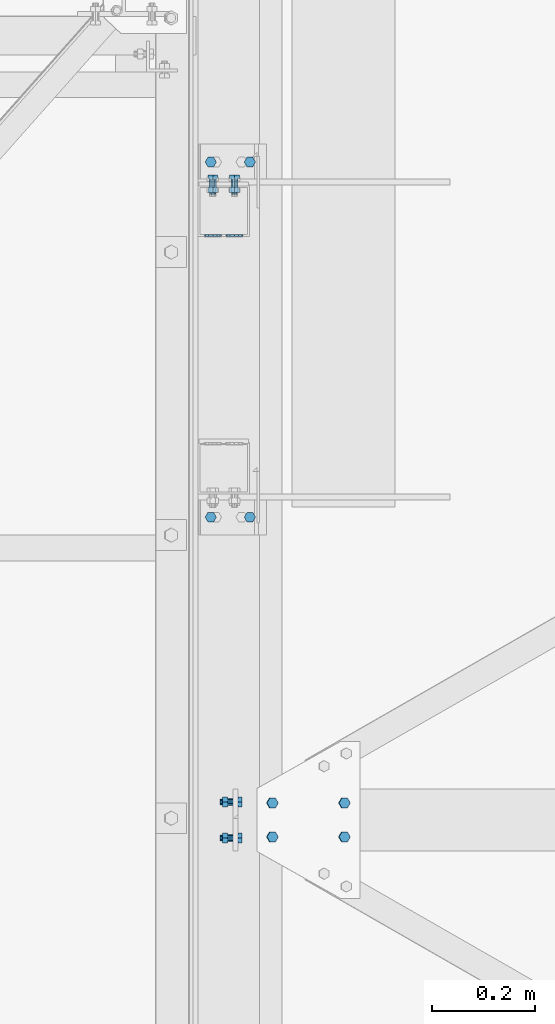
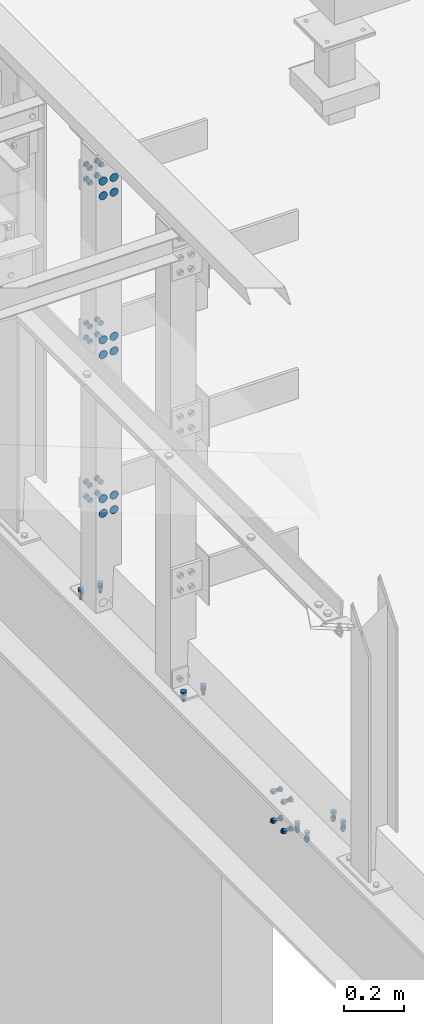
# One storey, part 364 of 3134: 10 mechanical fasteners, 5 elements without a shape of their own.
"""IFC2X3 building model written with IfcOpenShell, lengths in millimetres."""

from ifc_helpers import new_model, si_unit, frame, origin_with_axes, place, context, subcontext, project, spatial, faceted_brep, source, transform, mapped, material, type_object, element, aggregate, save


model = new_model("IFC2X3")

# Units and contexts
model_context = context("Model", 3, precision=1e-05, world=origin_with_axes())
body_context = subcontext(model_context, "Body", "Model", "MODEL_VIEW")
ifc_project = project(units=[si_unit("LENGTHUNIT", "METRE", prefix="MILLI"), si_unit("AREAUNIT", "SQUARE_METRE"), si_unit("VOLUMEUNIT", "CUBIC_METRE"), si_unit("MASSUNIT", "GRAM", prefix="KILO"), si_unit("TIMEUNIT", "SECOND"), si_unit("PLANEANGLEUNIT", "RADIAN"), si_unit("SOLIDANGLEUNIT", "STERADIAN"), si_unit("THERMODYNAMICTEMPERATUREUNIT", "DEGREE_CELSIUS"), si_unit("LUMINOUSINTENSITYUNIT", "LUMEN")], contexts=[model_context])

# Site, building, storey
site_placement = place(None, origin_with_axes())
site = spatial("IfcSite", under=ifc_project, at=site_placement, CompositionType="ELEMENT")
building_placement = place(site_placement, origin_with_axes())
building = spatial("IfcBuilding", under=site, at=building_placement, Name="Undefined", CompositionType="ELEMENT")
storey_placement = place(building_placement, origin_with_axes())
storey = spatial("IfcBuildingStorey", under=building, at=storey_placement, Name="Undefined", CompositionType="ELEMENT", Elevation=0.0)

# Assembly, mechanical fasteners
assembly_1_placement = place(storey_placement, origin_with_axes())
assembly_1 = element("IfcElementAssembly", 1, at=assembly_1_placement, inside=storey, AssemblyPlace="NOTDEFINED", PredefinedType="RIGID_FRAME")
ifc_material = material(Name="8.8")
mechanical_fastener_type = type_object("IfcMechanicalFastenerType", Name="Bolt assembly")
shared_shape_1 = source(origin_with_axes(), body_context, "Body", "Brep", [
    faceted_brep([(16.5, -4.0, 0.0), (14.289419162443, -4.0, 8.25000000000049), (8.24999999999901, -4.0, 14.2894191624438), (-1.70995436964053e-12, -4.0, 16.5), (-8.25000000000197, -4.0, 14.2894191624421), (-14.2894191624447, -4.0, 8.24999999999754), (-16.5, -4.0, -3.41990873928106e-12), (-14.2894191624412, -4.0, -8.25000000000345), (-8.24999999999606, -4.0, -14.2894191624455), (5.11154442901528e-12, -4.0, -16.5), (8.25000000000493, -4.0, -14.2894191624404), (14.2894191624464, -4.0, -8.24999999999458), (14.2894191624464, 0.1, -8.24999999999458), (8.25000000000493, 0.1, -14.2894191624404), (5.11154442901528e-12, 0.1, -16.5), (-8.24999999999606, 0.1, -14.2894191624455), (-14.2894191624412, 0.1, -8.25000000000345), (-16.5, 0.1, -3.41990873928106e-12), (-14.2894191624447, 0.1, 8.24999999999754), (-8.25000000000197, 0.1, 14.2894191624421), (-1.70995436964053e-12, 0.1, 16.5), (8.24999999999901, 0.1, 14.2894191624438), (14.289419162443, 0.1, 8.25000000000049), (16.5, 0.1, 0.0)], [[[0, 1, 2, 3, 4, 5, 6, 7, 8, 9, 10, 11]], [[12, 13, 14, 15, 16, 17, 18, 19, 20, 21, 22, 23]], [[0, 23, 22, 1]], [[1, 22, 21, 2]], [[2, 21, 20, 3]], [[3, 20, 19, 4]], [[4, 19, 18, 5]], [[5, 18, 17, 6]], [[6, 17, 16, 7]], [[7, 16, 15, 8]], [[8, 15, 14, 9]], [[9, 14, 13, 10]], [[10, 13, 12, 11]], [[11, 12, 23, 0]]]),
])
mechanical_fastener_1_placement = place(assembly_1_placement, frame((71802.0, 18850.0, 5119.91), z_axis=(-1.0, 0.0, 0.0), x_axis=(0.0, 0.0, -1.0)))
mechanical_fastener_1 = element("IfcMechanicalFastener", 2, at=mechanical_fastener_1_placement, type_object=mechanical_fastener_type, material=ifc_material, Name="Bolt assembly", NominalDiameter=30.0, NominalLength=4.0, context=body_context, shape_type="MappedRepresentation", body=[
    mapped(shared_shape_1, transform((0.0, 0.0, -21.0))),
    mapped(shared_shape_1, transform((60.0, 0.0, -21.0))),
    mapped(shared_shape_1, transform((0.0, 0.0, 21.0))),
    mapped(shared_shape_1, transform((60.0, 0.0, 21.0))),
])
mechanical_fastener_2_placement = place(assembly_1_placement, frame((71802.0, 18850.0, 5770.0), z_axis=(-1.0, 0.0, 0.0), x_axis=(0.0, 0.0, -1.0)))
mechanical_fastener_2 = element("IfcMechanicalFastener", 3, at=mechanical_fastener_2_placement, type_object=mechanical_fastener_type, material=ifc_material, Name="Bolt assembly", NominalDiameter=30.0, NominalLength=4.0, context=body_context, shape_type="MappedRepresentation", body=[
    mapped(shared_shape_1, transform((0.0, 0.0, -21.0))),
    mapped(shared_shape_1, transform((60.0, 0.0, -21.0))),
    mapped(shared_shape_1, transform((0.0, 0.0, 21.0))),
    mapped(shared_shape_1, transform((60.0, 0.0, 21.0))),
])
mechanical_fastener_3_placement = place(assembly_1_placement, frame((71802.0, 18850.0, 4469.82), z_axis=(-1.0, 0.0, 0.0), x_axis=(0.0, 0.0, -1.0)))
mechanical_fastener_3 = element("IfcMechanicalFastener", 4, at=mechanical_fastener_3_placement, type_object=mechanical_fastener_type, material=ifc_material, Name="Bolt assembly", NominalDiameter=30.0, NominalLength=4.0, context=body_context, shape_type="MappedRepresentation", body=[
    mapped(shared_shape_1, transform((0.0, 0.0, -21.0))),
    mapped(shared_shape_1, transform((60.0, 0.0, -21.0))),
    mapped(shared_shape_1, transform((0.0, 0.0, 21.0))),
    mapped(shared_shape_1, transform((60.0, 0.0, 21.0))),
])
shared_shape_2 = source(origin_with_axes(), body_context, "Body", "Brep", [
    faceted_brep([(10.9696551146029, -20.0, 0.0), (5.48482755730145, -20.0, 9.5), (-5.48482755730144, -20.0, 9.5), (-10.9696551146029, -20.0, 1.34339530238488e-15), (-5.48482755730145, -20.0, -9.5), (5.48482755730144, -20.0, -9.50000000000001), (5.48482755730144, -12.0, -9.50000000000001), (-5.48482755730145, -12.0, -9.5), (-10.9696551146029, -12.0, 1.34339530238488e-15), (-5.48482755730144, -12.0, 9.5), (5.48482755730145, -12.0, 9.5), (10.9696551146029, -12.0, 0.0), (6.0, -12.0, 0.0), (5.19615242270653, -12.0, 3.00000000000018), (2.99999999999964, -12.0, 5.19615242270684), (-6.21801588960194e-13, -12.0, 6.0), (-3.00000000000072, -12.0, 5.19615242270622), (-5.19615242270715, -12.0, 2.9999999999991), (-6.0, -12.0, -1.24360317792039e-12), (-5.19615242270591, -12.0, -3.00000000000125), (-2.99999999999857, -12.0, -5.19615242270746), (1.85874342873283e-12, -12.0, -6.0), (3.00000000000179, -12.0, -5.1961524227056), (5.19615242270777, -12.0, -2.99999999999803), (5.19615242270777, 18.0, -2.99999999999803), (3.00000000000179, 18.0, -5.1961524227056), (1.85874342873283e-12, 18.0, -6.0), (-2.99999999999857, 18.0, -5.19615242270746), (-5.19615242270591, 18.0, -3.00000000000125), (-6.0, 18.0, -1.24360317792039e-12), (-5.19615242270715, 18.0, 2.9999999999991), (-3.00000000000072, 18.0, 5.19615242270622), (-6.21801588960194e-13, 18.0, 6.0), (2.99999999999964, 18.0, 5.19615242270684), (5.19615242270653, 18.0, 3.00000000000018), (6.0, 18.0, 0.0), (10.9696551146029, 4.00000000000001, 0.0), (5.48482755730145, 4.00000000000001, 9.5), (-5.48482755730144, 4.00000000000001, 9.5), (-10.9696551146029, 4.00000000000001, 1.34339530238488e-15), (-5.48482755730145, 4.00000000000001, -9.5), (5.48482755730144, 4.00000000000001, -9.50000000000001), (5.48482755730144, 14.0, -9.50000000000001), (-5.48482755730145, 14.0, -9.5), (-10.9696551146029, 14.0, 1.34339530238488e-15), (-5.48482755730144, 14.0, 9.5), (5.48482755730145, 14.0, 9.5), (10.9696551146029, 14.0, 0.0)], [[[0, 1, 2, 3, 4, 5]], [[6, 7, 8, 9, 10, 11]], [[0, 11, 10, 1]], [[1, 10, 9, 2]], [[2, 9, 8, 3]], [[3, 8, 7, 4]], [[4, 7, 6, 5]], [[5, 6, 11, 0]], [[12, 13, 14, 15, 16, 17, 18, 19, 20, 21, 22, 23]], [[24, 25, 26, 27, 28, 29, 30, 31, 32, 33, 34, 35]], [[12, 35, 34, 13]], [[13, 34, 33, 14]], [[14, 33, 32, 15]], [[15, 32, 31, 16]], [[16, 31, 30, 17]], [[17, 30, 29, 18]], [[18, 29, 28, 19]], [[19, 28, 27, 20]], [[20, 27, 26, 21]], [[21, 26, 25, 22]], [[22, 25, 24, 23]], [[23, 24, 35, 12]], [[36, 37, 38, 39, 40, 41]], [[42, 43, 44, 45, 46, 47]], [[36, 47, 46, 37]], [[37, 46, 45, 38]], [[38, 45, 44, 39]], [[39, 44, 43, 40]], [[40, 43, 42, 41]], [[41, 42, 47, 36]]]),
    faceted_brep([(7.0, -11.9, 0.0), (6.06217782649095, -11.9, 3.50000000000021), (3.49999999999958, -11.9, 6.06217782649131), (-7.25435187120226e-13, -11.9, 7.0), (-3.50000000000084, -11.9, 6.06217782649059), (-6.06217782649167, -11.9, 3.49999999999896), (-7.0, -11.9, -1.45087037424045e-12), (-6.06217782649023, -11.9, -3.50000000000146), (-3.49999999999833, -11.9, -6.06217782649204), (2.1685340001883e-12, -11.9, -7.0), (3.50000000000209, -11.9, -6.06217782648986), (6.0621778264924, -11.9, -3.4999999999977), (6.0621778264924, 0.0999999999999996, -3.4999999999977), (3.50000000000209, 0.0999999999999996, -6.06217782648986), (2.1685340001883e-12, 0.0999999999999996, -7.0), (-3.49999999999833, 0.0999999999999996, -6.06217782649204), (-6.06217782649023, 0.0999999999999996, -3.50000000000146), (-7.0, 0.0999999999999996, -1.45087037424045e-12), (-6.06217782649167, 0.0999999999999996, 3.49999999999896), (-3.50000000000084, 0.0999999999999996, 6.06217782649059), (-7.25435187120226e-13, 0.0999999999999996, 7.0), (3.49999999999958, 0.0999999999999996, 6.06217782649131), (6.06217782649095, 0.0999999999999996, 3.50000000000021), (7.0, 0.0999999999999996, 0.0), (7.0, -0.1, 0.0), (6.06217782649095, -0.1, 3.50000000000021), (3.49999999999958, -0.1, 6.06217782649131), (-7.25435187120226e-13, -0.1, 7.0), (-3.50000000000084, -0.1, 6.06217782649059), (-6.06217782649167, -0.1, 3.49999999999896), (-7.0, -0.1, -1.45087037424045e-12), (-6.06217782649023, -0.1, -3.50000000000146), (-3.49999999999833, -0.1, -6.06217782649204), (2.1685340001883e-12, -0.1, -7.0), (3.50000000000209, -0.1, -6.06217782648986), (6.0621778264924, -0.1, -3.4999999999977), (6.0621778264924, 4.00000000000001, -3.4999999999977), (3.50000000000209, 4.00000000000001, -6.06217782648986), (2.1685340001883e-12, 4.00000000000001, -7.0), (-3.49999999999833, 4.00000000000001, -6.06217782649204), (-6.06217782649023, 4.00000000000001, -3.50000000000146), (-7.0, 4.00000000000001, -1.45087037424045e-12), (-6.06217782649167, 4.00000000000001, 3.49999999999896), (-3.50000000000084, 4.00000000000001, 6.06217782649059), (-7.25435187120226e-13, 4.00000000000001, 7.0), (3.49999999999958, 4.00000000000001, 6.06217782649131), (6.06217782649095, 4.00000000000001, 3.50000000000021), (7.0, 4.00000000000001, 0.0)], [[[0, 1, 2, 3, 4, 5, 6, 7, 8, 9, 10, 11]], [[12, 13, 14, 15, 16, 17, 18, 19, 20, 21, 22, 23]], [[0, 23, 22, 1]], [[1, 22, 21, 2]], [[2, 21, 20, 3]], [[3, 20, 19, 4]], [[4, 19, 18, 5]], [[5, 18, 17, 6]], [[6, 17, 16, 7]], [[7, 16, 15, 8]], [[8, 15, 14, 9]], [[9, 14, 13, 10]], [[10, 13, 12, 11]], [[11, 12, 23, 0]], [[24, 25, 26, 27, 28, 29, 30, 31, 32, 33, 34, 35]], [[36, 37, 38, 39, 40, 41, 42, 43, 44, 45, 46, 47]], [[24, 47, 46, 25]], [[25, 46, 45, 26]], [[26, 45, 44, 27]], [[27, 44, 43, 28]], [[28, 43, 42, 29]], [[29, 42, 41, 30]], [[30, 41, 40, 31]], [[31, 40, 39, 32]], [[32, 39, 38, 33]], [[33, 38, 37, 34]], [[34, 37, 36, 35]], [[35, 36, 47, 24]]]),
])
mechanical_fastener_4_placement = place(assembly_1_placement, frame((71802.0, 18950.0, 5119.91), z_axis=(-1.0, 0.0, 0.0), x_axis=(0.0, 0.0, -1.0)))
mechanical_fastener_4 = element("IfcMechanicalFastener", 5, at=mechanical_fastener_4_placement, type_object=mechanical_fastener_type, material=ifc_material, Name="Bolt assembly", NominalDiameter=12.0, NominalLength=30.0, context=body_context, shape_type="MappedRepresentation", body=[
    mapped(shared_shape_2, transform((0.0, 0.0, -21.0))),
    mapped(shared_shape_2, transform((60.0, 0.0, -21.0))),
    mapped(shared_shape_2, transform((0.0, 0.0, 21.0))),
    mapped(shared_shape_2, transform((60.0, 0.0, 21.0))),
])
mechanical_fastener_5_placement = place(assembly_1_placement, frame((71802.0, 18950.0, 4469.82), z_axis=(-1.0, 0.0, 0.0), x_axis=(0.0, 0.0, -1.0)))
mechanical_fastener_5 = element("IfcMechanicalFastener", 6, at=mechanical_fastener_5_placement, type_object=mechanical_fastener_type, material=ifc_material, Name="Bolt assembly", NominalDiameter=12.0, NominalLength=30.0, context=body_context, shape_type="MappedRepresentation", body=[
    mapped(shared_shape_2, transform((0.0, 0.0, -21.0))),
    mapped(shared_shape_2, transform((60.0, 0.0, -21.0))),
    mapped(shared_shape_2, transform((0.0, 0.0, 21.0))),
    mapped(shared_shape_2, transform((60.0, 0.0, 21.0))),
])
mechanical_fastener_6_placement = place(assembly_1_placement, frame((71802.0, 18950.0, 5770.0), z_axis=(-1.0, 0.0, 0.0), x_axis=(0.0, 0.0, -1.0)))
mechanical_fastener_6 = element("IfcMechanicalFastener", 7, at=mechanical_fastener_6_placement, type_object=mechanical_fastener_type, material=ifc_material, Name="Bolt assembly", NominalDiameter=12.0, NominalLength=30.0, context=body_context, shape_type="MappedRepresentation", body=[
    mapped(shared_shape_2, transform((0.0, 0.0, -21.0))),
    mapped(shared_shape_2, transform((60.0, 0.0, -21.0))),
    mapped(shared_shape_2, transform((0.0, 0.0, 21.0))),
    mapped(shared_shape_2, transform((60.0, 0.0, 21.0))),
])
aggregate(assembly_1, [mechanical_fastener_1, mechanical_fastener_4, mechanical_fastener_2, mechanical_fastener_3, mechanical_fastener_5, mechanical_fastener_6])

# Assembly, mechanical fastener
assembly_2_placement = place(storey_placement, origin_with_axes())
assembly_2 = element("IfcElementAssembly", 8, at=assembly_2_placement, inside=storey, AssemblyPlace="NOTDEFINED", PredefinedType="RIGID_FRAME")
shared_shape_3 = source(origin_with_axes(), body_context, "Body", "Brep", [
    faceted_brep([(10.9696551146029, -16.0, 0.0), (5.48482755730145, -16.0, 9.5), (-5.48482755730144, -16.0, 9.5), (-10.9696551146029, -16.0, 1.34339530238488e-15), (-5.48482755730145, -16.0, -9.5), (5.48482755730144, -16.0, -9.50000000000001), (5.48482755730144, -8.0, -9.50000000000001), (-5.48482755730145, -8.0, -9.5), (-10.9696551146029, -8.0, 1.34339530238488e-15), (-5.48482755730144, -8.0, 9.5), (5.48482755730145, -8.0, 9.5), (10.9696551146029, -8.0, 0.0), (6.0, -8.0, 0.0), (5.19615242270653, -8.0, 3.00000000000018), (2.99999999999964, -8.0, 5.19615242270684), (-6.21801588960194e-13, -8.0, 6.0), (-3.00000000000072, -8.0, 5.19615242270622), (-5.19615242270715, -8.0, 2.9999999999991), (-6.0, -8.0, -1.24360317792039e-12), (-5.19615242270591, -8.0, -3.00000000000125), (-2.99999999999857, -8.0, -5.19615242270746), (1.85874342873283e-12, -8.0, -6.0), (3.00000000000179, -8.0, -5.1961524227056), (5.19615242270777, -8.0, -2.99999999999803), (5.19615242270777, 27.0, -2.99999999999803), (3.00000000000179, 27.0, -5.1961524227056), (1.85874342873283e-12, 27.0, -6.0), (-2.99999999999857, 27.0, -5.19615242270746), (-5.19615242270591, 27.0, -3.00000000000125), (-6.0, 27.0, -1.24360317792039e-12), (-5.19615242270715, 27.0, 2.9999999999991), (-3.00000000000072, 27.0, 5.19615242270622), (-6.21801588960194e-13, 27.0, 6.0), (2.99999999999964, 27.0, 5.19615242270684), (5.19615242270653, 27.0, 3.00000000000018), (6.0, 27.0, 0.0), (10.9696551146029, 0.0, 0.0), (5.48482755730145, 0.0, 9.5), (-5.48482755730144, 0.0, 9.5), (-10.9696551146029, 0.0, 1.34339530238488e-15), (-5.48482755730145, 0.0, -9.5), (5.48482755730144, 0.0, -9.50000000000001), (5.48482755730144, 10.0, -9.50000000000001), (-5.48482755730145, 10.0, -9.5), (-10.9696551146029, 10.0, 1.34339530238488e-15), (-5.48482755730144, 10.0, 9.5), (5.48482755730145, 10.0, 9.5), (10.9696551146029, 10.0, 0.0)], [[[0, 1, 2, 3, 4, 5]], [[6, 7, 8, 9, 10, 11]], [[0, 11, 10, 1]], [[1, 10, 9, 2]], [[2, 9, 8, 3]], [[3, 8, 7, 4]], [[4, 7, 6, 5]], [[5, 6, 11, 0]], [[12, 13, 14, 15, 16, 17, 18, 19, 20, 21, 22, 23]], [[24, 25, 26, 27, 28, 29, 30, 31, 32, 33, 34, 35]], [[12, 35, 34, 13]], [[13, 34, 33, 14]], [[14, 33, 32, 15]], [[15, 32, 31, 16]], [[16, 31, 30, 17]], [[17, 30, 29, 18]], [[18, 29, 28, 19]], [[19, 28, 27, 20]], [[20, 27, 26, 21]], [[21, 26, 25, 22]], [[22, 25, 24, 23]], [[23, 24, 35, 12]], [[36, 37, 38, 39, 40, 41]], [[42, 43, 44, 45, 46, 47]], [[36, 47, 46, 37]], [[37, 46, 45, 38]], [[38, 45, 44, 39]], [[39, 44, 43, 40]], [[40, 43, 42, 41]], [[41, 42, 47, 36]]]),
    faceted_brep([(7.0, -8.0, 0.0), (6.06217782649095, -8.0, 3.50000000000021), (3.49999999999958, -8.0, 6.06217782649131), (-7.25435187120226e-13, -8.0, 7.0), (-3.50000000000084, -8.0, 6.06217782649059), (-6.06217782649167, -8.0, 3.49999999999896), (-7.0, -8.0, -1.45087037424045e-12), (-6.06217782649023, -8.0, -3.50000000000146), (-3.49999999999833, -8.0, -6.06217782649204), (2.1685340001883e-12, -8.0, -7.0), (3.50000000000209, -8.0, -6.06217782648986), (6.0621778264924, -8.0, -3.4999999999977), (6.0621778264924, 0.0999999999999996, -3.4999999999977), (3.50000000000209, 0.0999999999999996, -6.06217782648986), (2.1685340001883e-12, 0.0999999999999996, -7.0), (-3.49999999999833, 0.0999999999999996, -6.06217782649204), (-6.06217782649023, 0.0999999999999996, -3.50000000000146), (-7.0, 0.0999999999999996, -1.45087037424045e-12), (-6.06217782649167, 0.0999999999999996, 3.49999999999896), (-3.50000000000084, 0.0999999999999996, 6.06217782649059), (-7.25435187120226e-13, 0.0999999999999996, 7.0), (3.49999999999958, 0.0999999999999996, 6.06217782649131), (6.06217782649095, 0.0999999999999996, 3.50000000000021), (7.0, 0.0999999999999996, 0.0)], [[[0, 1, 2, 3, 4, 5, 6, 7, 8, 9, 10, 11]], [[12, 13, 14, 15, 16, 17, 18, 19, 20, 21, 22, 23]], [[0, 23, 22, 1]], [[1, 22, 21, 2]], [[2, 21, 20, 3]], [[3, 20, 19, 4]], [[4, 19, 18, 5]], [[5, 18, 17, 6]], [[6, 17, 16, 7]], [[7, 16, 15, 8]], [[8, 15, 14, 9]], [[9, 14, 13, 10]], [[10, 13, 12, 11]], [[11, 12, 23, 0]]]),
])
mechanical_fastener_7_placement = place(assembly_2_placement, frame((71853.0, 18995.0, 4000.0), z_axis=(0.0, -1.0, 0.0), x_axis=(-1.0, 0.0, 0.0)))
mechanical_fastener_7 = element("IfcMechanicalFastener", 9, at=mechanical_fastener_7_placement, type_object=mechanical_fastener_type, material=ifc_material, Name="Bolt assembly", NominalDiameter=12.0, NominalLength=35.0, context=body_context, shape_type="MappedRepresentation", body=[
    mapped(shared_shape_3, transform((0.0, 0.0, 0.0))),
    mapped(shared_shape_3, transform((76.0, 0.0, 0.0))),
])
aggregate(assembly_2, [mechanical_fastener_7])

assembly_3_placement = place(storey_placement, origin_with_axes())
assembly_3 = element("IfcElementAssembly", 10, at=assembly_3_placement, inside=storey, AssemblyPlace="NOTDEFINED", PredefinedType="RIGID_FRAME")
mechanical_fastener_8_placement = place(assembly_3_placement, frame((71853.0, 18305.0, 4000.0), z_axis=(0.0, -1.0, 0.0), x_axis=(-1.0, 0.0, 0.0)))
mechanical_fastener_8 = element("IfcMechanicalFastener", 11, at=mechanical_fastener_8_placement, type_object=mechanical_fastener_type, material=ifc_material, Name="Bolt assembly", NominalDiameter=12.0, NominalLength=35.0, context=body_context, shape_type="MappedRepresentation", body=[
    mapped(shared_shape_3, transform((0.0, 0.0, 0.0))),
    mapped(shared_shape_3, transform((76.0, 0.0, 0.0))),
])
aggregate(assembly_3, [mechanical_fastener_8])

assembly_4_placement = place(storey_placement, origin_with_axes())
assembly_4 = element("IfcElementAssembly", 12, at=assembly_4_placement, inside=storey, Name="IPE500", AssemblyPlace="NOTDEFINED", PredefinedType="RIGID_FRAME")
shared_shape_4 = source(origin_with_axes(), body_context, "Body", "Brep", [
    faceted_brep([(10.9696551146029, -18.0, 0.0), (5.48482755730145, -18.0, 9.5), (-5.48482755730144, -18.0, 9.5), (-10.9696551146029, -18.0, 1.34339530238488e-15), (-5.48482755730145, -18.0, -9.5), (5.48482755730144, -18.0, -9.50000000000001), (5.48482755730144, -10.0, -9.50000000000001), (-5.48482755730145, -10.0, -9.5), (-10.9696551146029, -10.0, 1.34339530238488e-15), (-5.48482755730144, -10.0, 9.5), (5.48482755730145, -10.0, 9.5), (10.9696551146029, -10.0, 0.0), (6.0, -10.0, 0.0), (5.19615242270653, -10.0, 3.00000000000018), (2.99999999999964, -10.0, 5.19615242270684), (-6.21801588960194e-13, -10.0, 6.0), (-3.00000000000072, -10.0, 5.19615242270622), (-5.19615242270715, -10.0, 2.9999999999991), (-6.0, -10.0, -1.24360317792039e-12), (-5.19615242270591, -10.0, -3.00000000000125), (-2.99999999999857, -10.0, -5.19615242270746), (1.85874342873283e-12, -10.0, -6.0), (3.00000000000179, -10.0, -5.1961524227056), (5.19615242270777, -10.0, -2.99999999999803), (5.19615242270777, 24.9999999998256, -2.99999999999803), (3.00000000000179, 24.9999999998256, -5.1961524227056), (1.85874342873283e-12, 24.9999999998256, -6.0), (-2.99999999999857, 24.9999999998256, -5.19615242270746), (-5.19615242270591, 24.9999999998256, -3.00000000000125), (-6.0, 24.9999999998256, -1.24360317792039e-12), (-5.19615242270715, 24.9999999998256, 2.9999999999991), (-3.00000000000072, 24.9999999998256, 5.19615242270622), (-6.21801588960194e-13, 24.9999999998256, 6.0), (2.99999999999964, 24.9999999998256, 5.19615242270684), (5.19615242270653, 24.9999999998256, 3.00000000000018), (6.0, 24.9999999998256, 0.0), (10.9696551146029, 10.1999998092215, 0.0), (5.48482755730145, 10.1999998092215, 9.5), (-5.48482755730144, 10.1999998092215, 9.5), (-10.9696551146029, 10.1999998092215, 1.34339530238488e-15), (-5.48482755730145, 10.1999998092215, -9.5), (5.48482755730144, 10.1999998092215, -9.50000000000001), (5.48482755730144, 20.1999998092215, -9.50000000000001), (-5.48482755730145, 20.1999998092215, -9.5), (-10.9696551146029, 20.1999998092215, 1.34339530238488e-15), (-5.48482755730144, 20.1999998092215, 9.5), (5.48482755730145, 20.1999998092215, 9.5), (10.9696551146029, 20.1999998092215, 0.0)], [[[0, 1, 2, 3, 4, 5]], [[6, 7, 8, 9, 10, 11]], [[0, 11, 10, 1]], [[1, 10, 9, 2]], [[2, 9, 8, 3]], [[3, 8, 7, 4]], [[4, 7, 6, 5]], [[5, 6, 11, 0]], [[12, 13, 14, 15, 16, 17, 18, 19, 20, 21, 22, 23]], [[24, 25, 26, 27, 28, 29, 30, 31, 32, 33, 34, 35]], [[12, 35, 34, 13]], [[13, 34, 33, 14]], [[14, 33, 32, 15]], [[15, 32, 31, 16]], [[16, 31, 30, 17]], [[17, 30, 29, 18]], [[18, 29, 28, 19]], [[19, 28, 27, 20]], [[20, 27, 26, 21]], [[21, 26, 25, 22]], [[22, 25, 24, 23]], [[23, 24, 35, 12]], [[36, 37, 38, 39, 40, 41]], [[42, 43, 44, 45, 46, 47]], [[36, 47, 46, 37]], [[37, 46, 45, 38]], [[38, 45, 44, 39]], [[39, 44, 43, 40]], [[40, 43, 42, 41]], [[41, 42, 47, 36]]]),
    faceted_brep([(7.0, -9.89999913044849, 0.0), (6.06217782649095, -9.89999913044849, 3.50000000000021), (3.49999999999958, -9.89999913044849, 6.06217782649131), (-7.25435187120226e-13, -9.89999913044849, 7.0), (-3.50000000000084, -9.89999913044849, 6.06217782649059), (-6.06217782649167, -9.89999913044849, 3.49999999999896), (-7.0, -9.89999913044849, -1.45087037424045e-12), (-6.06217782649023, -9.89999913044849, -3.50000000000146), (-3.49999999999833, -9.89999913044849, -6.06217782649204), (2.1685340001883e-12, -9.89999913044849, -7.0), (3.50000000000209, -9.89999913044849, -6.06217782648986), (6.0621778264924, -9.89999913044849, -3.4999999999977), (6.0621778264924, 0.0999999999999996, -3.4999999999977), (3.50000000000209, 0.0999999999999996, -6.06217782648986), (2.1685340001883e-12, 0.0999999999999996, -7.0), (-3.49999999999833, 0.0999999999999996, -6.06217782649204), (-6.06217782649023, 0.0999999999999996, -3.50000000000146), (-7.0, 0.0999999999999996, -1.45087037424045e-12), (-6.06217782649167, 0.0999999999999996, 3.49999999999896), (-3.50000000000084, 0.0999999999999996, 6.06217782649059), (-7.25435187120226e-13, 0.0999999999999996, 7.0), (3.49999999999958, 0.0999999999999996, 6.06217782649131), (6.06217782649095, 0.0999999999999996, 3.50000000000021), (7.0, 0.0999999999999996, 0.0), (7.0, -0.1, 0.0), (6.06217782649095, -0.1, 3.50000000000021), (3.49999999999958, -0.1, 6.06217782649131), (-7.25435187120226e-13, -0.1, 7.0), (-3.50000000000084, -0.1, 6.06217782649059), (-6.06217782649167, -0.1, 3.49999999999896), (-7.0, -0.1, -1.45087037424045e-12), (-6.06217782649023, -0.1, -3.50000000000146), (-3.49999999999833, -0.1, -6.06217782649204), (2.1685340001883e-12, -0.1, -7.0), (3.50000000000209, -0.1, -6.06217782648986), (6.0621778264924, -0.1, -3.4999999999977), (6.0621778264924, 10.1999998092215, -3.4999999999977), (3.50000000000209, 10.1999998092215, -6.06217782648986), (2.1685340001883e-12, 10.1999998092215, -7.0), (-3.49999999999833, 10.1999998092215, -6.06217782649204), (-6.06217782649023, 10.1999998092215, -3.50000000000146), (-7.0, 10.1999998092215, -1.45087037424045e-12), (-6.06217782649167, 10.1999998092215, 3.49999999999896), (-3.50000000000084, 10.1999998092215, 6.06217782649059), (-7.25435187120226e-13, 10.1999998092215, 7.0), (3.49999999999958, 10.1999998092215, 6.06217782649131), (6.06217782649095, 10.1999998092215, 3.50000000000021), (7.0, 10.1999998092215, 0.0)], [[[0, 1, 2, 3, 4, 5, 6, 7, 8, 9, 10, 11]], [[12, 13, 14, 15, 16, 17, 18, 19, 20, 21, 22, 23]], [[0, 23, 22, 1]], [[1, 22, 21, 2]], [[2, 21, 20, 3]], [[3, 20, 19, 4]], [[4, 19, 18, 5]], [[5, 18, 17, 6]], [[6, 17, 16, 7]], [[7, 16, 15, 8]], [[8, 15, 14, 9]], [[9, 14, 13, 10]], [[10, 13, 12, 11]], [[11, 12, 23, 0]], [[24, 25, 26, 27, 28, 29, 30, 31, 32, 33, 34, 35]], [[36, 37, 38, 39, 40, 41, 42, 43, 44, 45, 46, 47]], [[24, 47, 46, 25]], [[25, 46, 45, 26]], [[26, 45, 44, 27]], [[27, 44, 43, 28]], [[28, 43, 42, 29]], [[29, 42, 41, 30]], [[30, 41, 40, 31]], [[31, 40, 39, 32]], [[32, 39, 38, 33]], [[33, 38, 37, 34]], [[34, 37, 36, 35]], [[35, 36, 47, 24]]]),
])
mechanical_fastener_9_placement = place(assembly_4_placement, frame((71820.0999999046, 17716.663332, 3929.41660800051), z_axis=(0.0, 1.0, 0.0), x_axis=(0.0, 0.0, -1.0)))
mechanical_fastener_9 = element("IfcMechanicalFastener", 13, at=mechanical_fastener_9_placement, type_object=mechanical_fastener_type, material=ifc_material, Name="Bolt assembly", NominalDiameter=12.0, NominalLength=35.0, context=body_context, shape_type="MappedRepresentation", body=[
    mapped(shared_shape_4, transform((0.0, 0.0, -35.0))),
    mapped(shared_shape_4, transform((120.0, 0.0, -35.0))),
    mapped(shared_shape_4, transform((0.0, 0.0, 35.0))),
    mapped(shared_shape_4, transform((120.0, 0.0, 35.0))),
])
aggregate(assembly_4, [mechanical_fastener_9])

assembly_5_placement = place(storey_placement, origin_with_axes())
assembly_5 = element("IfcElementAssembly", 14, at=assembly_5_placement, inside=storey, Name="IPE240", AssemblyPlace="NOTDEFINED", PredefinedType="RIGID_FRAME")
shared_shape_5 = source(origin_with_axes(), body_context, "Body", "Brep", [
    faceted_brep([(10.9696551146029, -17.8000021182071, 0.0), (5.48482755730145, -17.8000021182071, 9.5), (-5.48482755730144, -17.8000021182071, 9.5), (-10.9696551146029, -17.8000021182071, 1.34339530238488e-15), (-5.48482755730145, -17.8000021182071, -9.5), (5.48482755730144, -17.8000021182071, -9.50000000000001), (5.48482755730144, -9.80000211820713, -9.50000000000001), (-5.48482755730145, -9.80000211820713, -9.5), (-10.9696551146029, -9.80000211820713, 1.34339530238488e-15), (-5.48482755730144, -9.80000211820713, 9.5), (5.48482755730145, -9.80000211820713, 9.5), (10.9696551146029, -9.80000211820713, 0.0), (6.0, -9.80000211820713, 0.0), (5.19615242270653, -9.80000211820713, 3.00000000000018), (2.99999999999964, -9.80000211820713, 5.19615242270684), (-6.21801588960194e-13, -9.80000211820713, 6.0), (-3.00000000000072, -9.80000211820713, 5.19615242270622), (-5.19615242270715, -9.80000211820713, 2.9999999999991), (-6.0, -9.80000211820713, -1.24360317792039e-12), (-5.19615242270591, -9.80000211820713, -3.00000000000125), (-2.99999999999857, -9.80000211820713, -5.19615242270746), (1.85874342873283e-12, -9.80000211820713, -6.0), (3.00000000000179, -9.80000211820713, -5.1961524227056), (5.19615242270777, -9.80000211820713, -2.99999999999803), (5.19615242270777, 25.1999978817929, -2.99999999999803), (3.00000000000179, 25.1999978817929, -5.1961524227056), (1.85874342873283e-12, 25.1999978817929, -6.0), (-2.99999999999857, 25.1999978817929, -5.19615242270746), (-5.19615242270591, 25.1999978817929, -3.00000000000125), (-6.0, 25.1999978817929, -1.24360317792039e-12), (-5.19615242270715, 25.1999978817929, 2.9999999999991), (-3.00000000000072, 25.1999978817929, 5.19615242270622), (-6.21801588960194e-13, 25.1999978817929, 6.0), (2.99999999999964, 25.1999978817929, 5.19615242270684), (5.19615242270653, 25.1999978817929, 3.00000000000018), (6.0, 25.1999978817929, 0.0), (10.9696551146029, 8.0, 0.0), (5.48482755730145, 8.0, 9.5), (-5.48482755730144, 8.0, 9.5), (-10.9696551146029, 8.0, 1.34339530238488e-15), (-5.48482755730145, 8.0, -9.5), (5.48482755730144, 8.0, -9.50000000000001), (5.48482755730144, 18.0, -9.50000000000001), (-5.48482755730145, 18.0, -9.5), (-10.9696551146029, 18.0, 1.34339530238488e-15), (-5.48482755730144, 18.0, 9.5), (5.48482755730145, 18.0, 9.5), (10.9696551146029, 18.0, 0.0)], [[[0, 1, 2, 3, 4, 5]], [[6, 7, 8, 9, 10, 11]], [[0, 11, 10, 1]], [[1, 10, 9, 2]], [[2, 9, 8, 3]], [[3, 8, 7, 4]], [[4, 7, 6, 5]], [[5, 6, 11, 0]], [[12, 13, 14, 15, 16, 17, 18, 19, 20, 21, 22, 23]], [[24, 25, 26, 27, 28, 29, 30, 31, 32, 33, 34, 35]], [[12, 35, 34, 13]], [[13, 34, 33, 14]], [[14, 33, 32, 15]], [[15, 32, 31, 16]], [[16, 31, 30, 17]], [[17, 30, 29, 18]], [[18, 29, 28, 19]], [[19, 28, 27, 20]], [[20, 27, 26, 21]], [[21, 26, 25, 22]], [[22, 25, 24, 23]], [[23, 24, 35, 12]], [[36, 37, 38, 39, 40, 41]], [[42, 43, 44, 45, 46, 47]], [[36, 47, 46, 37]], [[37, 46, 45, 38]], [[38, 45, 44, 39]], [[39, 44, 43, 40]], [[40, 43, 42, 41]], [[41, 42, 47, 36]]]),
    faceted_brep([(7.0, -0.1, 0.0), (6.06217782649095, -0.1, 3.50000000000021), (3.49999999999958, -0.1, 6.06217782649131), (-7.25435187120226e-13, -0.1, 7.0), (-3.50000000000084, -0.1, 6.06217782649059), (-6.06217782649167, -0.1, 3.49999999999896), (-7.0, -0.1, -1.45087037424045e-12), (-6.06217782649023, -0.1, -3.50000000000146), (-3.49999999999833, -0.1, -6.06217782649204), (2.1685340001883e-12, -0.1, -7.0), (3.50000000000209, -0.1, -6.06217782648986), (6.0621778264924, -0.1, -3.4999999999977), (6.0621778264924, 8.0000000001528, -3.4999999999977), (3.50000000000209, 8.0000000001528, -6.06217782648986), (2.1685340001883e-12, 8.0000000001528, -7.0), (-3.49999999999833, 8.0000000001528, -6.06217782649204), (-6.06217782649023, 8.0000000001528, -3.50000000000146), (-7.0, 8.0000000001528, -1.45087037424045e-12), (-6.06217782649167, 8.0000000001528, 3.49999999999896), (-3.50000000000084, 8.0000000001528, 6.06217782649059), (-7.25435187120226e-13, 8.0000000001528, 7.0), (3.49999999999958, 8.0000000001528, 6.06217782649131), (6.06217782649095, 8.0000000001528, 3.50000000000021), (7.0, 8.0000000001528, 0.0), (7.0, -9.70000211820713, 0.0), (6.06217782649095, -9.70000211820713, 3.50000000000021), (3.49999999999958, -9.70000211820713, 6.06217782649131), (-7.25435187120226e-13, -9.70000211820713, 7.0), (-3.50000000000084, -9.70000211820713, 6.06217782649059), (-6.06217782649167, -9.70000211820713, 3.49999999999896), (-7.0, -9.70000211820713, -1.45087037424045e-12), (-6.06217782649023, -9.70000211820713, -3.50000000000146), (-3.49999999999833, -9.70000211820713, -6.06217782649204), (2.1685340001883e-12, -9.70000211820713, -7.0), (3.50000000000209, -9.70000211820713, -6.06217782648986), (6.0621778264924, -9.70000211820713, -3.4999999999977), (6.0621778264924, 0.0999999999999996, -3.4999999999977), (3.50000000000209, 0.0999999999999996, -6.06217782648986), (2.1685340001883e-12, 0.0999999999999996, -7.0), (-3.49999999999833, 0.0999999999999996, -6.06217782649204), (-6.06217782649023, 0.0999999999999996, -3.50000000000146), (-7.0, 0.0999999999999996, -1.45087037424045e-12), (-6.06217782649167, 0.0999999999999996, 3.49999999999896), (-3.50000000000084, 0.0999999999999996, 6.06217782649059), (-7.25435187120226e-13, 0.0999999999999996, 7.0), (3.49999999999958, 0.0999999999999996, 6.06217782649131), (6.06217782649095, 0.0999999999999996, 3.50000000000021), (7.0, 0.0999999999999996, 0.0)], [[[0, 1, 2, 3, 4, 5, 6, 7, 8, 9, 10, 11]], [[12, 13, 14, 15, 16, 17, 18, 19, 20, 21, 22, 23]], [[0, 23, 22, 1]], [[1, 22, 21, 2]], [[2, 21, 20, 3]], [[3, 20, 19, 4]], [[4, 19, 18, 5]], [[5, 18, 17, 6]], [[6, 17, 16, 7]], [[7, 16, 15, 8]], [[8, 15, 14, 9]], [[9, 14, 13, 10]], [[10, 13, 12, 11]], [[11, 12, 23, 0]], [[24, 25, 26, 27, 28, 29, 30, 31, 32, 33, 34, 35]], [[36, 37, 38, 39, 40, 41, 42, 43, 44, 45, 46, 47]], [[24, 47, 46, 25]], [[25, 46, 45, 26]], [[26, 45, 44, 27]], [[27, 44, 43, 28]], [[28, 43, 42, 29]], [[29, 42, 41, 30]], [[30, 41, 40, 31]], [[31, 40, 39, 32]], [[32, 39, 38, 33]], [[33, 38, 37, 34]], [[34, 37, 36, 35]], [[35, 36, 47, 24]]]),
])
mechanical_fastener_10_placement = place(assembly_5_placement, frame((72036.6725219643, 17716.6632750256, 3753.01286267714), z_axis=(1.20000009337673e-06, -0.99999999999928, 0.0), x_axis=(-0.999519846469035, -1.79913593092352e-06, 0.0309851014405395)))
mechanical_fastener_10 = element("IfcMechanicalFastener", 15, at=mechanical_fastener_10_placement, type_object=mechanical_fastener_type, material=ifc_material, Name="Bolt assembly", NominalDiameter=12.0, NominalLength=35.0, context=body_context, shape_type="MappedRepresentation", body=[
    mapped(shared_shape_5, transform((0.0, 0.0, -33.0))),
    mapped(shared_shape_5, transform((140.000000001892, -1.64072844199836e-09, -32.9999999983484))),
    mapped(shared_shape_5, transform((0.0, 0.0, 33.0))),
    mapped(shared_shape_5, transform((140.000000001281, -1.73167791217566e-09, 33.0000000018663))),
])
aggregate(assembly_5, [mechanical_fastener_10])

save(model, "model.ifc")
